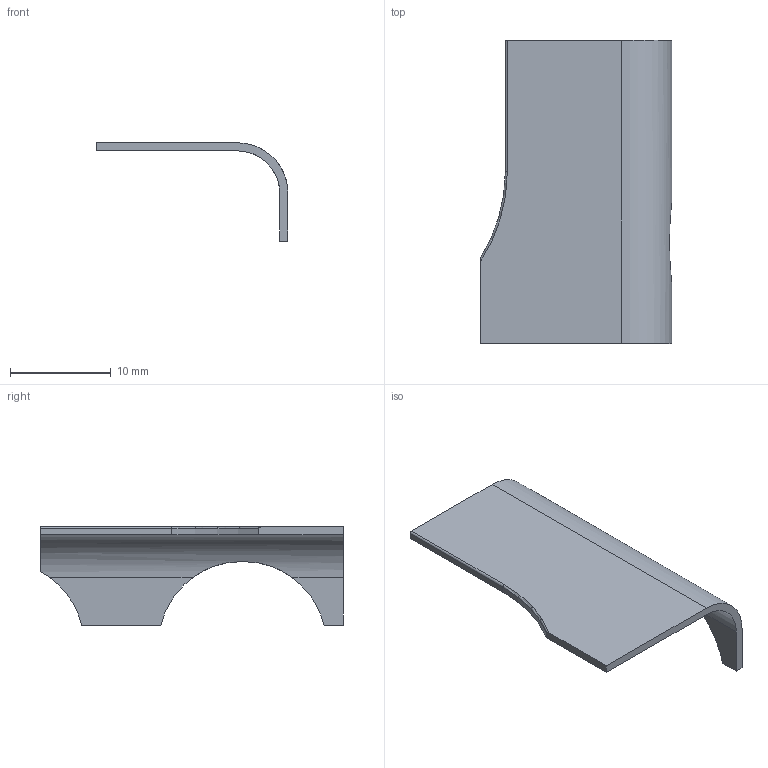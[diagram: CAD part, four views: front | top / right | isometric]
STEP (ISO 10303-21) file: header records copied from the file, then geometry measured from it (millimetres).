
FILE_DESCRIPTION(('Open CASCADE Model'),'2;1');
FILE_NAME('Open CASCADE Shape Model','2026-09-06T11:32:52',('Author'),( 'Open CASCADE'),'Open CASCADE STEP processor 7.7','Open CASCADE 7.7' ,'Unknown');
FILE_SCHEMA(('AUTOMOTIVE_DESIGN { 1 0 10303 214 1 1 1 1 }'));
Length unit declared in the file: millimetre
Products named in the file (1): Open CASCADE STEP translator 7.7 3
Bounding box: 19 x 30 x 9.75 mm (x, y, z)
Volume: 513.4 mm3; surface area: 1373.1 mm2
Topology: 1 solids, 1 shells, 21 faces, 56 edges, 37 vertices
Faces by surface type: plane 13, cylinder 7, torus 1
Entity records: 1592 total; most frequent: CARTESIAN_POINT 558, DIRECTION 162, ORIENTED_EDGE 112, PCURVE 112, DEFINITIONAL_REPRESENTATION 112, LINE 79, VECTOR 79, B_SPLINE_CURVE_WITH_KNOTS 61
